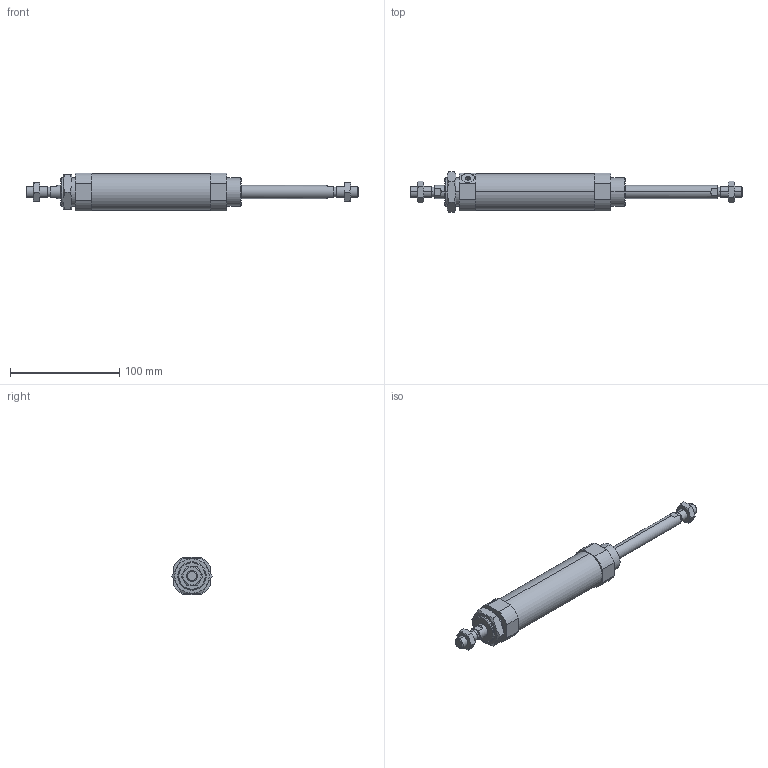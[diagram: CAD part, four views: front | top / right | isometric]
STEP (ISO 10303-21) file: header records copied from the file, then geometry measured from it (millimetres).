
FILE_DESCRIPTION (( 'STEP AP203' ), '1' );
FILE_NAME ('CSM2B32-75-P.STEP', '2020-07-20T16:46:14', ( '' ), ( '' ), 'SwSTEP 2.0', 'SolidWorks 2019', '' );
FILE_SCHEMA (( 'CONFIG_CONTROL_DESIGN' ));
Length unit declared in the file: millimetre
Products named in the file (1): CSM2B32-75-P
Bounding box: 304 x 36.95 x 34.5 mm (x, y, z)
Volume: 109280.3 mm3; surface area: 49359.9 mm2
Topology: 5 solids, 5 shells, 149 faces, 346 edges, 217 vertices
Faces by surface type: plane 57, cylinder 48, cone 44
Entity records: 5397 total; most frequent: CARTESIAN_POINT 1949, DIRECTION 714, ORIENTED_EDGE 680, EDGE_CURVE 340, AXIS2_PLACEMENT_3D 282, VERTEX_POINT 217, EDGE_LOOP 173, VECTOR 150
